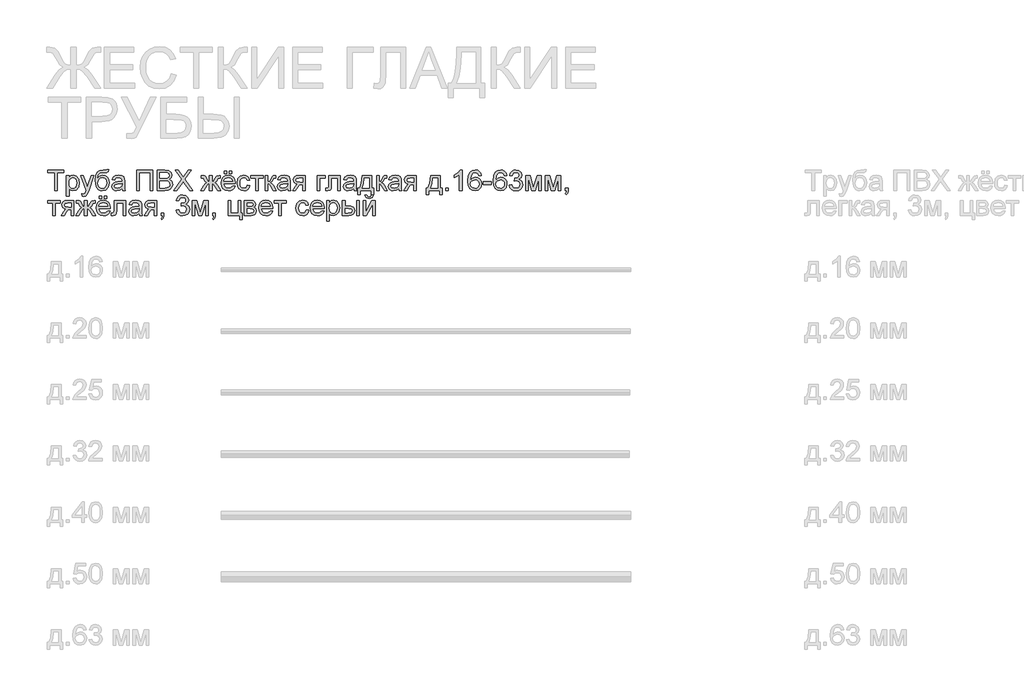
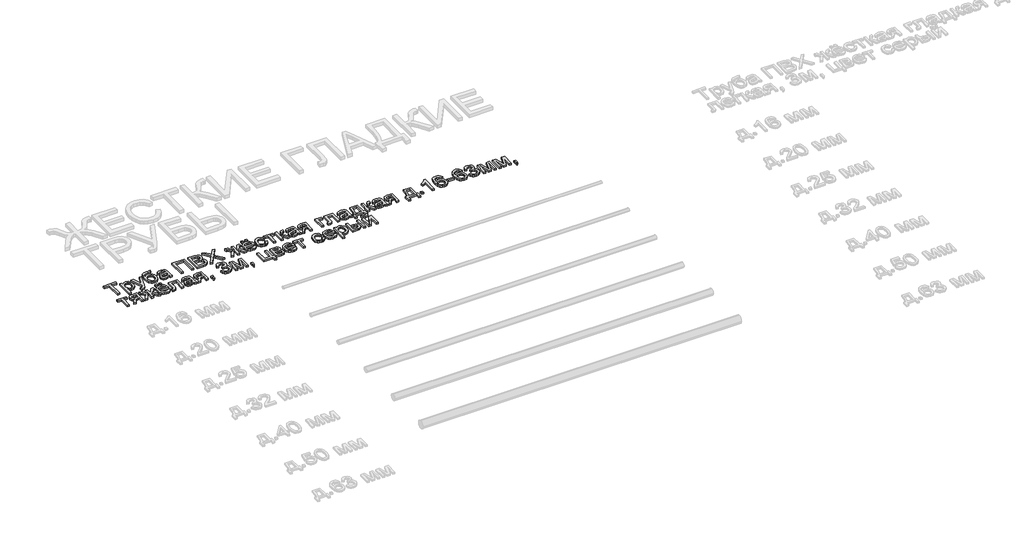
# One storey, part 91 of 98: 1 proxy.
"""IFC4 building model written with IfcOpenShell, lengths in millimetres."""

from ifc_helpers import new_model, si_unit, origin, origin_with_axes, place, context, project, spatial, polyline, outline, extrude, element, save

model = new_model("IFC4")

# Units and contexts
model_context = context("Model", 3, world=origin())
ifc_project = project(units=[si_unit("LENGTHUNIT", "METRE", prefix="MILLI")], contexts=[model_context])

# Site, building, storey
site = spatial("IfcSite", under=ifc_project)
building = spatial("IfcBuilding", under=site)
storey = spatial("IfcBuildingStorey", under=building, Name="Этаж 01", Elevation=0.0)

# Proxy
placement = place(None, origin())
element("IfcBuildingElementProxy", 1, Name="100", ObjectType="100", at=placement, inside=storey, context=model_context, shape_type="SweptSolid", body=[
    extrude(outline(polyline([(-11.289515, -3215.5625308), (-11.289515, -3127.6632594), (-44.2517418, -3127.6632594), (-44.2517418, -3115.1062206), (34.2297505, -3115.1062206), (34.2297505, -3127.6632594), (1.2675238, -3127.6632594), (1.2675238, -3215.5625308), (-11.289515, -3215.5625308)])), origin_with_axes(), (0.0, 0.0, 1.0), 10.0),
    extrude(outline(polyline([(46.7867893, -3243.815868), (46.7867893, -3141.789928), (59.3438281, -3141.789928), (59.3438281, -3154.1017121), (68.0258432, -3143.6906516), (79.7490161, -3140.2202982), (95.6660437, -3145.0763405), (106.0648415, -3158.7615507), (109.5719831, -3178.1121437), (105.6111203, -3198.456018), (94.1086766, -3212.3129065), (78.2284372, -3217.1321606), (67.3023419, -3213.9070618), (59.3438281, -3205.7523442), (59.3438281, -3243.815868), (46.7867893, -3243.815868)]), holes=[polyline([(59.3438281, -3179.2648406), (60.7019258, -3190.5220296), (64.7762189, -3198.3947043), (70.7880238, -3203.0300175), (77.958657, -3204.5751218), (85.2457862, -3202.9748352), (91.4108753, -3198.1739751), (95.6139271, -3190.0131262), (97.0149444, -3178.3328729), (95.6476496, -3167.1369975), (91.5457654, -3159.1539582), (85.5431575, -3154.3714922), (78.4736918, -3152.7773369), (71.376635, -3154.4726598), (65.1441009, -3159.5586284), (60.7938963, -3167.8758271), (59.3438281, -3179.2648406)])]), origin_with_axes(), (0.0, 0.0, 1.0), 10.0),
    extrude(outline(polyline([(123.6986518, -3243.815868), (122.1290219, -3231.7248131), (128.5056432, -3232.8284591), (134.4653315, -3231.4427702), (138.119626, -3227.5800093), (141.5531913, -3218.3339085), (142.5342099, -3215.2927506), (115.8505025, -3141.789928), (129.0942544, -3141.789928), (143.2454484, -3182.7474568), (148.1750672, -3199.1304683), (153.1046859, -3184.6604432), (167.6482874, -3141.789928), (180.7939374, -3141.789928), (155.1157741, -3217.3283643), (148.4448473, -3233.7113759), (141.1607838, -3242.5650692), (131.3751227, -3245.3854978), (123.6986518, -3243.815868)])), origin_with_axes(), (0.0, 0.0, 1.0), 10.0),
    extrude(outline(polyline([(242.9905201, -3113.5365908), (253.977929, -3113.5365908), (250.7405674, -3123.3345146), (244.3394207, -3126.8784445), (228.9619533, -3127.6632594), (208.250197, -3130.5572644), (200.3039459, -3139.8278907), (197.6184073, -3156.2354277), (208.4954516, -3144.2179492), (222.5117557, -3140.2202982), (235.5776979, -3142.7617496), (246.1788307, -3150.386104), (253.2053768, -3162.3453345), (255.5475588, -3177.8914145), (250.899983, -3199.4983503), (239.8757858, -3212.5336357), (222.5117557, -3217.1321606), (211.1779245, -3215.6514356), (202.6829161, -3211.2092605), (191.8303973, -3196.0525223), (188.0534754, -3163.8873732), (190.4355114, -3139.7941682), (197.5816191, -3125.1003482), (209.6696083, -3117.6047525), (226.8772887, -3115.1062206), (240.8568045, -3114.8241778), (242.9905201, -3113.5365908)]), holes=[polyline([(242.9905201, -3177.499007), (241.6293567, -3167.6183097), (237.5458665, -3159.7057812), (230.9853043, -3154.509448), (222.1929246, -3152.7773369), (213.0265315, -3154.6075499), (206.226846, -3160.0981886), (202.0145972, -3168.6483793), (200.6105142, -3179.657248), (202.16175, -3190.3288916), (206.8154572, -3198.1617124), (213.7439014, -3202.9717695), (222.1193482, -3204.5751218), (230.5377145, -3202.7203835), (237.20251, -3197.1561683), (241.5435175, -3188.5324012), (242.9905201, -3177.499007)])]), origin_with_axes(), (0.0, 0.0, 1.0), 10.0),
    extrude(outline(polyline([(318.3327527, -3206.1447517), (306.1558586, -3214.6550885), (292.7036403, -3217.1321606), (282.2098064, -3215.6422385), (274.4689561, -3211.1724723), (269.6956872, -3204.3850495), (268.1045976, -3195.9421577), (270.5080933, -3186.0093438), (276.8234009, -3178.7988567), (285.6157806, -3174.6785784), (296.4805622, -3172.7901175), (318.2591763, -3168.4736354), (318.3327527, -3165.6777322), (314.8746619, -3156.4071059), (300.993248, -3152.7773369), (288.2890564, -3155.1930954), (282.2312662, -3163.7647458), (269.6742274, -3162.195116), (275.1066182, -3149.9323828), (286.0449762, -3142.7464212), (302.6119287, -3140.2202982), (317.8299806, -3142.4521156), (326.4261566, -3148.0561847), (330.2766548, -3156.5787842), (330.8897914, -3167.5661931), (330.8897914, -3183.1889152), (331.5274536, -3205.0043175), (334.0290511, -3215.5625308), (321.4720124, -3215.5625308), (318.3327527, -3206.1447517)]), holes=[polyline([(318.3327527, -3181.0306742), (298.0747175, -3184.8811724), (287.2712495, -3186.9167861), (282.378419, -3190.227724), (280.6616364, -3195.0592409), (284.40177, -3201.8527951), (295.3769162, -3204.5751218), (308.0811077, -3201.5707522), (316.2726135, -3194.2989514), (318.2591763, -3184.5868668), (318.3327527, -3181.0306742)])]), origin_with_axes(), (0.0, 0.0, 1.0), 10.0),
    extrude(outline(polyline([(388.9660957, -3115.1062206), (467.447588, -3115.1062206), (467.447588, -3215.5625308), (454.8905493, -3215.5625308), (454.8905493, -3127.6632594), (401.5231345, -3127.6632594), (401.5231345, -3215.5625308), (388.9660957, -3215.5625308), (388.9660957, -3115.1062206)])), origin_with_axes(), (0.0, 0.0, 1.0), 10.0),
    extrude(outline(polyline([(489.4224059, -3215.5625308), (489.4224059, -3115.1062206), (527.7557098, -3115.1062206), (546.5299543, -3118.0615393), (557.6154651, -3127.1482246), (561.6253788, -3139.999569), (558.2531272, -3151.7350046), (548.0627959, -3160.6254862), (560.4358937, -3169.9942143), (564.7646385, -3185.6169364), (561.8093198, -3199.1182056), (554.4884681, -3208.7321884), (543.5623728, -3213.8334854), (527.4614042, -3215.5625308), (489.4224059, -3215.5625308)]), holes=[polyline([(501.9794447, -3155.9165966), (524.9107557, -3155.9165966), (538.3016603, -3154.8374761), (546.358276, -3150.1899002), (549.06834, -3142.0106572), (546.542217, -3133.8191514), (539.3072044, -3128.9753718), (523.1694476, -3127.6632594), (501.9794447, -3127.6632594), (501.9794447, -3155.9165966)]), polyline([(501.9794447, -3203.005492), (527.7311843, -3203.005492), (537.0508615, -3202.5149827), (544.935799, -3199.7803932), (550.1597233, -3194.2008496), (552.2075997, -3185.7395637), (549.804104, -3175.9784281), (542.0172685, -3170.1536298), (526.504911, -3168.4736354), (501.9794447, -3168.4736354), (501.9794447, -3203.005492)])]), origin_with_axes(), (0.0, 0.0, 1.0), 10.0),
    extrude(outline(polyline([(571.0431579, -3215.5625308), (609.7688692, -3160.8216899), (577.3216773, -3115.1062206), (592.3803136, -3115.1062206), (610.651786, -3140.8334348), (616.8076781, -3150.8643505), (624.0181652, -3140.6617566), (642.0934339, -3115.1062206), (657.3727994, -3115.1062206), (624.9256074, -3160.9688427), (663.6513188, -3215.5625308), (648.5926825, -3215.5625308), (622.7918919, -3179.1667387), (617.4208147, -3171.6128951), (611.5101774, -3179.9025027), (586.3225234, -3215.5625308), (571.0431579, -3215.5625308)])), origin_with_axes(), (0.0, 0.0, 1.0), 10.0),
    extrude(outline(polyline([(757.8291096, -3141.789928), (757.8291096, -3173.1825249), (765.1499613, -3170.5950882), (772.0784055, -3157.1673954), (780.3434877, -3144.2915256), (792.0911861, -3141.789928), (797.0698557, -3141.789928), (797.0698557, -3154.4205432), (793.611765, -3154.3469668), (787.1370419, -3155.6468165), (782.6488815, -3163.7892713), (777.4372199, -3172.7165411), (769.9937409, -3177.2537523), (778.2036407, -3182.1404515), (786.2050741, -3192.435016), (800.2091154, -3215.5625308), (785.8126667, -3215.5625308), (772.0293546, -3192.7538471), (765.0028085, -3183.2747543), (757.8291096, -3181.0306742), (757.8291096, -3215.5625308), (745.2720708, -3215.5625308), (745.2720708, -3181.0306742), (738.1228974, -3183.2257034), (731.0473003, -3192.7047961), (717.2639882, -3215.5625308), (702.892065, -3215.5625308), (716.8470553, -3192.435016), (724.9098024, -3182.1404515), (733.1564904, -3177.2537523), (725.2592903, -3172.2505572), (718.4902616, -3159.3746874), (715.1793236, -3155.1317817), (709.7591955, -3154.2733904), (706.0313247, -3154.3469668), (706.0313247, -3141.789928), (707.9197856, -3141.789928), (718.93172, -3142.5747429), (724.6461536, -3145.9102063), (731.0473003, -3157.1673954), (737.9021682, -3170.5092491), (745.2720708, -3173.1825249), (745.2720708, -3141.789928), (757.8291096, -3141.789928)])), origin_with_axes(), (0.0, 0.0, 1.0), 10.0),
    extrude(outline(polyline([(842.5891213, -3133.9417788), (842.5891213, -3121.38474), (855.14616, -3121.38474), (855.14616, -3133.9417788), (842.5891213, -3133.9417788)])), origin_with_axes(), (0.0, 0.0, 1.0), 10.0),
    extrude(outline(polyline([(817.4750437, -3133.9417788), (817.4750437, -3121.38474), (830.0320825, -3121.38474), (830.0320825, -3133.9417788), (817.4750437, -3133.9417788)])), origin_with_axes(), (0.0, 0.0, 1.0), 10.0),
    extrude(outline(polyline([(858.1382669, -3193.5877129), (870.450051, -3195.1573428), (866.0140073, -3204.4341004), (858.9353446, -3211.368676), (849.3734784, -3215.6912895), (837.4878243, -3217.1321606), (822.7541504, -3214.6458915), (811.4172535, -3207.187084), (804.1883723, -3195.2401162), (801.7787453, -3179.289366), (804.2128978, -3162.8021213), (811.5153554, -3150.4719431), (822.6989681, -3142.7832094), (836.7765857, -3140.2202982), (850.4158107, -3142.777078), (861.3143148, -3150.4474176), (868.4604226, -3162.7530704), (870.8424585, -3179.2157896), (870.7688821, -3182.600304), (814.335784, -3182.600304), (816.5093535, -3191.999689), (821.5585339, -3198.9097391), (828.8456631, -3203.1587762), (837.7330789, -3204.5751218), (850.044863, -3201.9508969), (858.1382669, -3193.5877129)]), holes=[polyline([(814.335784, -3170.0432652), (858.2854197, -3170.0432652), (853.2576991, -3158.6634488), (845.9368474, -3154.2488649), (836.7275348, -3152.7773369), (821.2642283, -3157.4739637), (816.3989889, -3162.9646025), (814.335784, -3170.0432652)])]), origin_with_axes(), (0.0, 0.0, 1.0), 10.0),
    extrude(outline(polyline([(930.4883926, -3188.8788234), (943.0454314, -3190.4484532), (939.5444211, -3201.6167375), (932.9654647, -3210.0565636), (923.9278304, -3215.3632614), (913.0507861, -3217.1321606), (899.693604, -3214.6642856), (889.248821, -3207.2606604), (882.5073834, -3195.2462476), (880.2602376, -3178.9460095), (884.0984731, -3158.0871004), (895.7971205, -3144.683933), (912.8791078, -3140.2202982), (923.4894377, -3141.7531398), (931.9721834, -3146.3516647), (938.0575647, -3153.7706183), (941.4758016, -3163.7647458), (928.9187628, -3165.3343757), (923.0939645, -3155.9288593), (912.9772097, -3152.7773369), (904.862346, -3154.3285727), (898.4213454, -3158.9822799), (894.2182936, -3166.9898447), (892.8172763, -3178.602653), (894.1876368, -3190.3718111), (898.2987181, -3198.4069671), (904.6232227, -3203.0330831), (912.6338531, -3204.5751218), (924.4673907, -3200.7246236), (930.4883926, -3188.8788234)])), origin_with_axes(), (0.0, 0.0, 1.0), 10.0),
    extrude(outline(polyline([(947.754321, -3141.789928), (1007.4002551, -3141.789928), (1007.4002551, -3154.3469668), (983.8558074, -3154.3469668), (983.8558074, -3215.5625308), (971.2987686, -3215.5625308), (971.2987686, -3154.3469668), (947.754321, -3154.3469668), (947.754321, -3141.789928)])), origin_with_axes(), (0.0, 0.0, 1.0), 10.0),
    extrude(outline(polyline([(1018.387664, -3141.789928), (1030.9447028, -3141.789928), (1030.9447028, -3173.1825249), (1039.3569377, -3170.926182), (1046.2485938, -3157.7805321), (1051.9752902, -3146.4375039), (1057.0275363, -3142.7464212), (1066.2123234, -3141.789928), (1068.6158191, -3141.789928), (1068.6158191, -3154.4205432), (1065.2313047, -3154.3469668), (1059.0999382, -3155.671342), (1054.7834561, -3163.9364241), (1049.7189473, -3172.8759566), (1042.6188248, -3177.2537523), (1050.5405504, -3182.1404515), (1058.3151232, -3192.435016), (1071.7550788, -3215.5625308), (1057.4812574, -3215.5625308), (1044.311082, -3192.9255253), (1037.689206, -3183.3483307), (1030.9447028, -3181.0306742), (1030.9447028, -3215.5625308), (1018.387664, -3215.5625308), (1018.387664, -3141.789928)])), origin_with_axes(), (0.0, 0.0, 1.0), 10.0),
    extrude(outline(polyline([(1126.6921234, -3206.1447517), (1114.5152294, -3214.6550885), (1101.0630111, -3217.1321606), (1090.5691772, -3215.6422385), (1082.8283268, -3211.1724723), (1078.055058, -3204.3850495), (1076.4639683, -3195.9421577), (1078.867464, -3186.0093438), (1085.1827716, -3178.7988567), (1093.9751513, -3174.6785784), (1104.8399329, -3172.7901175), (1126.618547, -3168.4736354), (1126.6921234, -3165.6777322), (1123.2340326, -3156.4071059), (1109.3526187, -3152.7773369), (1096.6484271, -3155.1930954), (1090.5906369, -3163.7647458), (1078.0335982, -3162.195116), (1083.465989, -3149.9323828), (1094.404347, -3142.7464212), (1110.9712995, -3140.2202982), (1126.1893513, -3142.4521156), (1134.7855273, -3148.0561847), (1138.6360255, -3156.5787842), (1139.2491622, -3167.5661931), (1139.2491622, -3183.1889152), (1139.8868243, -3205.0043175), (1142.3884219, -3215.5625308), (1129.8313831, -3215.5625308), (1126.6921234, -3206.1447517)]), holes=[polyline([(1126.6921234, -3181.0306742), (1106.4340882, -3184.8811724), (1095.6306203, -3186.9167861), (1090.7377897, -3190.227724), (1089.0210071, -3195.0592409), (1092.7611407, -3201.8527951), (1103.7362869, -3204.5751218), (1116.4404785, -3201.5707522), (1124.6319842, -3194.2989514), (1126.618547, -3184.5868668), (1126.6921234, -3181.0306742)])]), origin_with_axes(), (0.0, 0.0, 1.0), 10.0),
    extrude(outline(polyline([(1213.0217649, -3141.789928), (1213.0217649, -3215.5625308), (1200.4647262, -3215.5625308), (1200.4647262, -3187.3091935), (1193.6221211, -3187.3091935), (1184.3024438, -3188.9033489), (1175.5468524, -3199.6209776), (1165.5404621, -3215.5625308), (1151.021386, -3215.5625308), (1163.6274757, -3195.4025974), (1174.320579, -3184.9547488), (1165.7366658, -3182.3243925), (1159.7034011, -3177.3273287), (1154.9454606, -3163.1025583), (1156.5702728, -3154.5063823), (1161.4447092, -3147.7005654), (1169.3970917, -3143.2675873), (1180.2557419, -3141.789928), (1213.0217649, -3141.789928)]), holes=[polyline([(1200.4647262, -3154.3469668), (1183.9100364, -3154.3469668), (1170.506869, -3157.2532345), (1167.5024994, -3164.0590514), (1171.9293461, -3172.1647181), (1187.6133818, -3174.7521548), (1200.4647262, -3174.7521548), (1200.4647262, -3154.3469668)])]), origin_with_axes(), (0.0, 0.0, 1.0), 10.0),
    extrude(outline(polyline([(1271.0980692, -3141.789928), (1311.9084452, -3141.789928), (1311.9084452, -3154.3469668), (1283.655108, -3154.3469668), (1283.655108, -3215.5625308), (1271.0980692, -3215.5625308), (1271.0980692, -3141.789928)])), origin_with_axes(), (0.0, 0.0, 1.0), 10.0),
    extrude(outline(polyline([(1327.6047437, -3141.789928), (1384.1114182, -3141.789928), (1384.1114182, -3215.4889544), (1371.5543794, -3215.4889544), (1371.5543794, -3154.3469668), (1340.1617825, -3154.3469668), (1340.1617825, -3189.541011), (1339.3156539, -3205.7768697), (1334.668078, -3212.6317375), (1323.6806691, -3215.5625308), (1313.4780751, -3214.9248686), (1313.4780751, -3203.005492), (1319.0944069, -3203.005492), (1324.7720523, -3202.2329398), (1327.040658, -3199.7803932), (1327.6047437, -3188.8297725), (1327.6047437, -3141.789928)])), origin_with_axes(), (0.0, 0.0, 1.0), 10.0),
    extrude(outline(polyline([(1450.0358717, -3206.1447517), (1437.8589777, -3214.6550885), (1424.4067594, -3217.1321606), (1413.9129255, -3215.6422385), (1406.1720751, -3211.1724723), (1401.3988063, -3204.3850495), (1399.8077166, -3195.9421577), (1402.2112123, -3186.0093438), (1408.5265199, -3178.7988567), (1417.3188996, -3174.6785784), (1428.1836812, -3172.7901175), (1449.9622953, -3168.4736354), (1450.0358717, -3165.6777322), (1446.5777809, -3156.4071059), (1432.696367, -3152.7773369), (1419.9921754, -3155.1930954), (1413.9343852, -3163.7647458), (1401.3773465, -3162.195116), (1406.8097373, -3149.9323828), (1417.7480953, -3142.7464212), (1434.3150478, -3140.2202982), (1449.5330996, -3142.4521156), (1458.1292756, -3148.0561847), (1461.9797738, -3156.5787842), (1462.5929105, -3167.5661931), (1462.5929105, -3183.1889152), (1463.2305726, -3205.0043175), (1465.7321702, -3215.5625308), (1453.1751314, -3215.5625308), (1450.0358717, -3206.1447517)]), holes=[polyline([(1450.0358717, -3181.0306742), (1429.7778365, -3184.8811724), (1418.9743686, -3186.9167861), (1414.081538, -3190.227724), (1412.3647554, -3195.0592409), (1416.104889, -3201.8527951), (1427.0800352, -3204.5751218), (1439.7842268, -3201.5707522), (1447.9757325, -3194.2989514), (1449.9622953, -3184.5868668), (1450.0358717, -3181.0306742)])]), origin_with_axes(), (0.0, 0.0, 1.0), 10.0),
    extrude(outline(polyline([(1490.8462477, -3141.789928), (1537.9351431, -3141.789928), (1537.9351431, -3203.005492), (1547.3529222, -3203.005492), (1547.3529222, -3235.9677188), (1534.7958834, -3235.9677188), (1534.7958834, -3215.5625308), (1482.9980985, -3215.5625308), (1482.9980985, -3235.9677188), (1470.4410597, -3235.9677188), (1470.4410597, -3203.005492), (1478.2892089, -3203.005492), (1487.9890309, -3179.0563741), (1490.8462477, -3141.789928)]), holes=[polyline([(1501.8336566, -3154.3469668), (1498.8906007, -3182.9559233), (1492.4158775, -3203.005492), (1525.3781043, -3203.005492), (1525.3781043, -3154.3469668), (1501.8336566, -3154.3469668)])]), origin_with_axes(), (0.0, 0.0, 1.0), 10.0),
    extrude(outline(polyline([(1561.4795908, -3141.789928), (1574.0366295, -3141.789928), (1574.0366295, -3173.1825249), (1582.4488645, -3170.926182), (1589.3405205, -3157.7805321), (1595.0672169, -3146.4375039), (1600.119463, -3142.7464212), (1609.3042501, -3141.789928), (1611.7077458, -3141.789928), (1611.7077458, -3154.4205432), (1608.3232315, -3154.3469668), (1602.1918649, -3155.671342), (1597.8753828, -3163.9364241), (1592.810874, -3172.8759566), (1585.7107515, -3177.2537523), (1593.6324771, -3182.1404515), (1601.40705, -3192.435016), (1614.8470055, -3215.5625308), (1600.5731841, -3215.5625308), (1587.4030087, -3192.9255253), (1580.7811328, -3183.3483307), (1574.0366295, -3181.0306742), (1574.0366295, -3215.5625308), (1561.4795908, -3215.5625308), (1561.4795908, -3141.789928)])), origin_with_axes(), (0.0, 0.0, 1.0), 10.0),
    extrude(outline(polyline([(1669.7840502, -3206.1447517), (1657.6071561, -3214.6550885), (1644.1549378, -3217.1321606), (1633.6611039, -3215.6422385), (1625.9202536, -3211.1724723), (1621.1469847, -3204.3850495), (1619.5558951, -3195.9421577), (1621.9593908, -3186.0093438), (1628.2746984, -3178.7988567), (1637.067078, -3174.6785784), (1647.9318596, -3172.7901175), (1669.7104738, -3168.4736354), (1669.7840502, -3165.6777322), (1666.3259594, -3156.4071059), (1652.4445454, -3152.7773369), (1639.7403539, -3155.1930954), (1633.6825637, -3163.7647458), (1621.1255249, -3162.195116), (1626.5579157, -3149.9323828), (1637.4962737, -3142.7464212), (1654.0632262, -3140.2202982), (1669.2812781, -3142.4521156), (1677.877454, -3148.0561847), (1681.7279523, -3156.5787842), (1682.3410889, -3167.5661931), (1682.3410889, -3183.1889152), (1682.978751, -3205.0043175), (1685.4803486, -3215.5625308), (1672.9233098, -3215.5625308), (1669.7840502, -3206.1447517)]), holes=[polyline([(1669.7840502, -3181.0306742), (1649.5260149, -3184.8811724), (1638.722547, -3186.9167861), (1633.8297165, -3190.227724), (1632.1129338, -3195.0592409), (1635.8530675, -3201.8527951), (1646.8282137, -3204.5751218), (1659.5324052, -3201.5707522), (1667.723911, -3194.2989514), (1669.7104738, -3184.5868668), (1669.7840502, -3181.0306742)])]), origin_with_axes(), (0.0, 0.0, 1.0), 10.0),
    extrude(outline(polyline([(1756.1136917, -3141.789928), (1756.1136917, -3215.5625308), (1743.5566529, -3215.5625308), (1743.5566529, -3187.3091935), (1736.7140478, -3187.3091935), (1727.3943706, -3188.9033489), (1718.6387791, -3199.6209776), (1708.6323888, -3215.5625308), (1694.1133128, -3215.5625308), (1706.7194025, -3195.4025974), (1717.4125058, -3184.9547488), (1708.8285926, -3182.3243925), (1702.7953279, -3177.3273287), (1698.0373874, -3163.1025583), (1699.6621995, -3154.5063823), (1704.536636, -3147.7005654), (1712.4890184, -3143.2675873), (1723.3476686, -3141.789928), (1756.1136917, -3141.789928)]), holes=[polyline([(1743.5566529, -3154.3469668), (1727.0019631, -3154.3469668), (1713.5987958, -3157.2532345), (1710.5944261, -3164.0590514), (1715.0212728, -3172.1647181), (1730.7053086, -3174.7521548), (1743.5566529, -3174.7521548), (1743.5566529, -3154.3469668)])]), origin_with_axes(), (0.0, 0.0, 1.0), 10.0),
    extrude(outline(polyline([(1825.1774049, -3141.789928), (1872.2663003, -3141.789928), (1872.2663003, -3203.005492), (1881.6840794, -3203.005492), (1881.6840794, -3235.9677188), (1869.1270406, -3235.9677188), (1869.1270406, -3215.5625308), (1817.3292557, -3215.5625308), (1817.3292557, -3235.9677188), (1804.7722169, -3235.9677188), (1804.7722169, -3203.005492), (1812.6203661, -3203.005492), (1822.3201881, -3179.0563741), (1825.1774049, -3141.789928)]), holes=[polyline([(1836.1648138, -3154.3469668), (1833.2217579, -3182.9559233), (1826.7470348, -3203.005492), (1859.7092615, -3203.005492), (1859.7092615, -3154.3469668), (1836.1648138, -3154.3469668)])]), origin_with_axes(), (0.0, 0.0, 1.0), 10.0),
    extrude(outline(polyline([(1898.9500077, -3215.5625308), (1898.9500077, -3203.005492), (1911.5070464, -3203.005492), (1911.5070464, -3215.5625308), (1898.9500077, -3215.5625308)])), origin_with_axes(), (0.0, 0.0, 1.0), 10.0),
    extrude(outline(polyline([(1979.0011298, -3215.5625308), (1966.4440911, -3215.5625308), (1966.4440911, -3137.2772422), (1954.5492399, -3145.7507908), (1941.3300135, -3152.0906239), (1941.3300135, -3140.2202982), (1959.736376, -3128.4725998), (1970.9077259, -3115.1062206), (1979.0011298, -3115.1062206), (1979.0011298, -3215.5625308)])), origin_with_axes(), (0.0, 0.0, 1.0), 10.0),
    extrude(outline(polyline([(2073.1789206, -3141.789928), (2060.6218818, -3143.3595578), (2055.8639414, -3132.8871837), (2043.2823771, -3127.6632594), (2031.9516117, -3130.7044172), (2023.3799612, -3142.1210218), (2019.8115058, -3164.5005098), (2030.8847539, -3154.4818568), (2044.6067523, -3151.2077071), (2056.2072979, -3153.4456559), (2065.943908, -3160.1595023), (2072.5473898, -3170.4172786), (2074.7485504, -3183.2870171), (2070.6037466, -3200.614259), (2059.1994048, -3212.8769922), (2042.7428169, -3217.1321606), (2028.4965866, -3214.311732), (2017.1504927, -3205.8504461), (2009.7284735, -3190.9144371), (2007.2544671, -3168.6698391), (2010.0013193, -3143.6599948), (2018.241876, -3126.5596134), (2029.4929337, -3117.9695688), (2044.067192, -3115.1062206), (2055.0852578, -3116.8781856), (2063.9082943, -3122.1940804), (2070.0887118, -3130.6369722), (2073.1789206, -3141.789928)]), holes=[polyline([(2019.8115058, -3183.0908133), (2022.7177736, -3193.9678577), (2030.4432955, -3201.8650578), (2041.7617982, -3204.5751218), (2050.0483401, -3203.1710389), (2056.5629171, -3198.9587901), (2060.784363, -3192.3369141), (2062.1915117, -3183.70395), (2060.8027571, -3175.417408), (2056.6364935, -3169.0990348), (2050.0115519, -3165.0983181), (2041.2467634, -3163.7647458), (2026.053237, -3169.0990348), (2021.3719386, -3175.2641239), (2019.8115058, -3183.0908133)])]), origin_with_axes(), (0.0, 0.0, 1.0), 10.0),
    extrude(outline(polyline([(2082.5966997, -3185.7395637), (2082.5966997, -3173.1825249), (2121.8374458, -3173.1825249), (2121.8374458, -3185.7395637), (2082.5966997, -3185.7395637)])), origin_with_axes(), (0.0, 0.0, 1.0), 10.0),
    extrude(outline(polyline([(2197.1796784, -3141.789928), (2184.6226397, -3143.3595578), (2179.8646992, -3132.8871837), (2167.283135, -3127.6632594), (2155.9523695, -3130.7044172), (2147.380719, -3142.1210218), (2143.8122637, -3164.5005098), (2154.8855117, -3154.4818568), (2168.6075101, -3151.2077071), (2180.2080557, -3153.4456559), (2189.9446659, -3160.1595023), (2196.5481477, -3170.4172786), (2198.7493083, -3183.2870171), (2194.6045045, -3200.614259), (2183.2001626, -3212.8769922), (2166.7435747, -3217.1321606), (2152.4973444, -3214.311732), (2141.1512506, -3205.8504461), (2133.7292313, -3190.9144371), (2131.2552249, -3168.6698391), (2134.0020771, -3143.6599948), (2142.2426338, -3126.5596134), (2153.4936915, -3117.9695688), (2168.0679499, -3115.1062206), (2179.0860156, -3116.8781856), (2187.9090522, -3122.1940804), (2194.0894697, -3130.6369722), (2197.1796784, -3141.789928)]), holes=[polyline([(2143.8122637, -3183.0908133), (2146.7185314, -3193.9678577), (2154.4440533, -3201.8650578), (2165.762556, -3204.5751218), (2174.049098, -3203.1710389), (2180.563675, -3198.9587901), (2184.7851209, -3192.3369141), (2186.1922695, -3183.70395), (2184.803515, -3175.417408), (2180.6372514, -3169.0990348), (2174.0123098, -3165.0983181), (2165.2475213, -3163.7647458), (2150.0539949, -3169.0990348), (2145.3726965, -3175.2641239), (2143.8122637, -3183.0908133)])]), origin_with_axes(), (0.0, 0.0, 1.0), 10.0),
    extrude(outline(polyline([(2209.7367172, -3188.8788234), (2222.293756, -3187.3091935), (2229.2222002, -3200.5284199), (2242.1839092, -3204.5751218), (2250.7923479, -3203.1833016), (2257.4387492, -3199.007841), (2263.104132, -3185.2245289), (2257.4878002, -3172.2382945), (2243.2139788, -3167.1002093), (2234.4093363, -3168.4736354), (2235.8072879, -3155.9165966), (2237.8183762, -3156.0637494), (2252.0676721, -3152.4585059), (2256.8133499, -3147.8845064), (2258.3952424, -3141.3729951), (2253.8089802, -3131.5505458), (2241.9877054, -3127.6632594), (2230.0192779, -3131.587334), (2223.8633858, -3143.3595578), (2211.3063471, -3141.789928), (2215.0035611, -3130.5143448), (2221.5825174, -3122.0959785), (2230.5833636, -3116.8536601), (2241.5462471, -3115.1062206), (2256.6907225, -3118.5520486), (2267.285724, -3127.9698277), (2270.9522812, -3140.6372311), (2267.469665, -3152.2132512), (2257.1689691, -3160.5273843), (2270.8541793, -3169.1112975), (2275.6611707, -3185.4452581), (2273.257675, -3197.6834658), (2266.0471879, -3207.9105853), (2255.1640122, -3214.8267668), (2241.7424508, -3217.1321606), (2229.6023449, -3215.1639919), (2219.718582, -3209.2594859), (2212.8453201, -3200.2279829), (2209.7367172, -3188.8788234)])), origin_with_axes(), (0.0, 0.0, 1.0), 10.0),
    extrude(outline(polyline([(2289.7878394, -3141.789928), (2311.3947752, -3141.789928), (2328.0475669, -3200.847251), (2346.0002082, -3141.789928), (2366.6997018, -3141.789928), (2366.6997018, -3215.5625308), (2354.142663, -3215.5625308), (2354.142663, -3156.1618513), (2336.0919198, -3215.5625308), (2319.6108064, -3215.5625308), (2302.3448781, -3153.3168972), (2302.3448781, -3215.5625308), (2289.7878394, -3215.5625308), (2289.7878394, -3141.789928)])), origin_with_axes(), (0.0, 0.0, 1.0), 10.0),
    extrude(outline(polyline([(2385.53526, -3141.789928), (2407.1421958, -3141.789928), (2423.7949875, -3200.847251), (2441.7476288, -3141.789928), (2462.4471224, -3141.789928), (2462.4471224, -3215.5625308), (2449.8900837, -3215.5625308), (2449.8900837, -3156.1618513), (2431.8393404, -3215.5625308), (2415.358227, -3215.5625308), (2398.0922987, -3153.3168972), (2398.0922987, -3215.5625308), (2385.53526, -3215.5625308), (2385.53526, -3141.789928)])), origin_with_axes(), (0.0, 0.0, 1.0), 10.0),
    extrude(outline(polyline([(2484.4219403, -3215.5625308), (2484.4219403, -3203.005492), (2496.978979, -3203.005492), (2496.978979, -3215.5625308), (2494.7226361, -3228.4016124), (2487.5612, -3235.9677188), (2484.4219403, -3231.2588292), (2489.0327279, -3225.8387012), (2490.6759342, -3215.5625308), (2484.4219403, -3215.5625308)])), origin_with_axes(), (0.0, 0.0, 1.0), 10.0),
    extrude(outline(polyline([(-44.2517418, -3263.7647458), (15.3941924, -3263.7647458), (15.3941924, -3276.3217846), (-8.1502553, -3276.3217846), (-8.1502553, -3337.5373486), (-20.7072941, -3337.5373486), (-20.7072941, -3276.3217846), (-44.2517418, -3276.3217846), (-44.2517418, -3263.7647458)])), origin_with_axes(), (0.0, 0.0, 1.0), 10.0),
    extrude(outline(polyline([(82.8882758, -3263.7647458), (82.8882758, -3337.5373486), (70.331237, -3337.5373486), (70.331237, -3309.2840114), (63.4886319, -3309.2840114), (54.1689547, -3310.8781667), (45.4133632, -3321.5957955), (35.4069729, -3337.5373486), (20.8878968, -3337.5373486), (33.4939865, -3317.3774153), (44.1870899, -3306.9295666), (35.6031766, -3304.2992103), (29.5699119, -3299.3021466), (24.8119715, -3285.0773761), (26.4367836, -3276.4812001), (31.31122, -3269.6753832), (39.2636025, -3265.2424052), (50.1222527, -3263.7647458), (82.8882758, -3263.7647458)]), holes=[polyline([(70.331237, -3276.3217846), (53.7765472, -3276.3217846), (40.3733798, -3279.2280524), (37.3690102, -3286.0338693), (41.7958569, -3294.1395359), (57.4798926, -3296.7269726), (70.331237, -3296.7269726), (70.331237, -3276.3217846)])]), origin_with_axes(), (0.0, 0.0, 1.0), 10.0),
    extrude(outline(polyline([(147.2430994, -3263.7647458), (147.2430994, -3295.1573428), (154.5639511, -3292.5699061), (161.4923954, -3279.1422132), (169.7574776, -3266.2663434), (181.5051759, -3263.7647458), (186.4838456, -3263.7647458), (186.4838456, -3276.395361), (183.0257548, -3276.3217846), (176.5510317, -3277.6216343), (172.0628714, -3285.7640892), (166.8512098, -3294.6913589), (159.4077308, -3299.2285702), (167.6176306, -3304.1152694), (175.619064, -3314.4098338), (189.6231053, -3337.5373486), (175.2266565, -3337.5373486), (161.4433445, -3314.7286649), (154.4167984, -3305.2495722), (147.2430994, -3303.005492), (147.2430994, -3337.5373486), (134.6860607, -3337.5373486), (134.6860607, -3303.005492), (127.5368872, -3305.2005212), (120.4612902, -3314.679614), (106.6779781, -3337.5373486), (92.3060548, -3337.5373486), (106.2610452, -3314.4098338), (114.3237922, -3304.1152694), (122.5704803, -3299.2285702), (114.6732801, -3294.225375), (107.9042514, -3281.3495052), (104.5933135, -3277.1065995), (99.1731854, -3276.2482082), (95.4453145, -3276.3217846), (95.4453145, -3263.7647458), (97.3337754, -3263.7647458), (108.3457098, -3264.5495608), (114.0601435, -3267.8850242), (120.4612902, -3279.1422132), (127.316158, -3292.4840669), (134.6860607, -3295.1573428), (134.6860607, -3263.7647458), (147.2430994, -3263.7647458)])), origin_with_axes(), (0.0, 0.0, 1.0), 10.0),
    extrude(outline(polyline([(232.0031111, -3255.9165966), (232.0031111, -3243.3595578), (244.5601499, -3243.3595578), (244.5601499, -3255.9165966), (232.0031111, -3255.9165966)])), origin_with_axes(), (0.0, 0.0, 1.0), 10.0),
    extrude(outline(polyline([(206.8890336, -3255.9165966), (206.8890336, -3243.3595578), (219.4460724, -3243.3595578), (219.4460724, -3255.9165966), (206.8890336, -3255.9165966)])), origin_with_axes(), (0.0, 0.0, 1.0), 10.0),
    extrude(outline(polyline([(247.5522568, -3315.5625308), (259.8640409, -3317.1321606), (255.4279972, -3326.4089183), (248.3493345, -3333.3434939), (238.7874683, -3337.6661073), (226.9018141, -3339.1069785), (212.1681402, -3336.6207093), (200.8312434, -3329.1619019), (193.6023622, -3317.2149341), (191.1927351, -3301.2641839), (193.6268877, -3284.7769391), (200.9293453, -3272.4467609), (212.1129579, -3264.7580272), (226.1905756, -3262.195116), (239.8298006, -3264.7518959), (250.7283047, -3272.4222355), (257.8744124, -3284.7278882), (260.2564484, -3301.1906075), (260.182872, -3304.5751218), (203.7497739, -3304.5751218), (205.9233434, -3313.9745068), (210.9725237, -3320.884557), (218.2596529, -3325.133594), (227.1470688, -3326.5499397), (239.4588529, -3323.9257148), (247.5522568, -3315.5625308)]), holes=[polyline([(203.7497739, -3292.0180831), (247.6994096, -3292.0180831), (242.671689, -3280.6382667), (235.3508373, -3276.2236828), (226.1415247, -3274.7521548), (210.6782181, -3279.4487816), (205.8129788, -3284.9394204), (203.7497739, -3292.0180831)])]), origin_with_axes(), (0.0, 0.0, 1.0), 10.0),
    extrude(outline(polyline([(279.0920065, -3263.7647458), (335.598681, -3263.7647458), (335.598681, -3337.4637722), (323.0416422, -3337.4637722), (323.0416422, -3276.3217846), (291.6490453, -3276.3217846), (291.6490453, -3311.5158288), (290.8029167, -3327.7516875), (286.1553408, -3334.6065554), (275.1679319, -3337.5373486), (264.9653379, -3336.8996865), (264.9653379, -3324.9803098), (270.5816697, -3324.9803098), (276.2593152, -3324.2077577), (278.5279208, -3321.755211), (279.0920065, -3310.8045903), (279.0920065, -3263.7647458)])), origin_with_axes(), (0.0, 0.0, 1.0), 10.0),
    extrude(outline(polyline([(401.5231345, -3328.1195695), (389.3462405, -3336.6299064), (375.8940222, -3339.1069785), (365.4001883, -3337.6170564), (357.659338, -3333.1472901), (352.8860691, -3326.3598673), (351.2949794, -3317.9169755), (353.6984751, -3307.9841617), (360.0137827, -3300.7736746), (368.8061624, -3296.6533962), (379.670944, -3294.7649353), (401.4495581, -3290.4484532), (401.5231345, -3287.6525501), (398.0650438, -3278.3819238), (384.1836298, -3274.7521548), (371.4794382, -3277.1679132), (365.4216481, -3285.7395637), (352.8646093, -3284.1699338), (358.2970001, -3271.9072007), (369.2353581, -3264.721239), (385.8023106, -3262.195116), (401.0203625, -3264.4269334), (409.6165384, -3270.0310025), (413.4670366, -3278.5536021), (414.0801733, -3289.541011), (414.0801733, -3305.163733), (414.7178354, -3326.9791354), (417.219433, -3337.5373486), (404.6623942, -3337.5373486), (401.5231345, -3328.1195695)]), holes=[polyline([(401.5231345, -3303.005492), (381.2650993, -3306.8559902), (370.4616314, -3308.8916039), (365.5688008, -3312.2025419), (363.8520182, -3317.0340587), (367.5921518, -3323.8276129), (378.567298, -3326.5499397), (391.2714896, -3323.5455701), (399.4629953, -3316.2737693), (401.4495581, -3306.5616846), (401.5231345, -3303.005492)])]), origin_with_axes(), (0.0, 0.0, 1.0), 10.0),
    extrude(outline(polyline([(487.852776, -3263.7647458), (487.852776, -3337.5373486), (475.2957373, -3337.5373486), (475.2957373, -3309.2840114), (468.4531322, -3309.2840114), (459.133455, -3310.8781667), (450.3778635, -3321.5957955), (440.3714732, -3337.5373486), (425.8523971, -3337.5373486), (438.4584868, -3317.3774153), (449.1515902, -3306.9295666), (440.5676769, -3304.2992103), (434.5344122, -3299.3021466), (429.7764717, -3285.0773761), (431.4012839, -3276.4812001), (436.2757203, -3269.6753832), (444.2281028, -3265.2424052), (455.086753, -3263.7647458), (487.852776, -3263.7647458)]), holes=[polyline([(475.2957373, -3276.3217846), (458.7410475, -3276.3217846), (445.3378801, -3279.2280524), (442.3335105, -3286.0338693), (446.7603572, -3294.1395359), (462.4443929, -3296.7269726), (475.2957373, -3296.7269726), (475.2957373, -3276.3217846)])]), origin_with_axes(), (0.0, 0.0, 1.0), 10.0),
    extrude(outline(polyline([(509.8275939, -3337.5373486), (509.8275939, -3324.9803098), (522.3846327, -3324.9803098), (522.3846327, -3337.5373486), (520.1282898, -3350.3764302), (512.9668536, -3357.9425366), (509.8275939, -3353.2336471), (514.4383816, -3347.813519), (516.0815878, -3337.5373486), (509.8275939, -3337.5373486)])), origin_with_axes(), (0.0, 0.0, 1.0), 10.0),
    extrude(outline(polyline([(582.0305668, -3310.8536412), (594.5876056, -3309.2840114), (601.5160498, -3322.5032377), (614.4777588, -3326.5499397), (623.0861975, -3325.1581195), (629.7325989, -3320.9826588), (635.3979816, -3307.1993467), (629.7816498, -3294.2131123), (615.5078284, -3289.0750271), (606.703186, -3290.4484532), (608.1011375, -3277.8914145), (610.1122258, -3278.0385673), (624.3615217, -3274.4333237), (629.1071995, -3269.8593242), (630.689092, -3263.3478129), (626.1028298, -3253.5253636), (614.2815551, -3249.6380772), (602.3131275, -3253.5621518), (596.1572354, -3265.3343757), (583.6001967, -3263.7647458), (587.2974107, -3252.4891627), (593.8763671, -3244.0707964), (602.8772132, -3238.8284779), (613.8400967, -3237.0810385), (628.9845721, -3240.5268665), (639.5795736, -3249.9446456), (643.2461308, -3262.6120489), (639.7635146, -3274.188069), (629.4628187, -3282.5022021), (643.1480289, -3291.0861154), (647.9550203, -3307.4200759), (645.5515246, -3319.6582836), (638.3410375, -3329.8854031), (627.4578618, -3336.8015846), (614.0363004, -3339.1069785), (601.8961946, -3337.1388098), (592.0124316, -3331.2343038), (585.1391697, -3322.2028008), (582.0305668, -3310.8536412)])), origin_with_axes(), (0.0, 0.0, 1.0), 10.0),
    extrude(outline(polyline([(662.081689, -3263.7647458), (683.6886248, -3263.7647458), (700.3414165, -3322.8220688), (718.2940578, -3263.7647458), (738.9935514, -3263.7647458), (738.9935514, -3337.5373486), (726.4365127, -3337.5373486), (726.4365127, -3278.1366691), (708.3857694, -3337.5373486), (691.904656, -3337.5373486), (674.6387277, -3275.291715), (674.6387277, -3337.5373486), (662.081689, -3337.5373486), (662.081689, -3263.7647458)])), origin_with_axes(), (0.0, 0.0, 1.0), 10.0),
    extrude(outline(polyline([(760.9683693, -3337.5373486), (760.9683693, -3324.9803098), (773.525408, -3324.9803098), (773.525408, -3337.5373486), (771.2690651, -3350.3764302), (764.107629, -3357.9425366), (760.9683693, -3353.2336471), (765.5791569, -3347.813519), (767.2223632, -3337.5373486), (760.9683693, -3337.5373486)])), origin_with_axes(), (0.0, 0.0, 1.0), 10.0),
    extrude(outline(polyline([(836.3106019, -3263.7647458), (848.8676406, -3263.7647458), (848.8676406, -3324.9803098), (884.9691271, -3324.9803098), (884.9691271, -3263.7647458), (897.5261659, -3263.7647458), (897.5261659, -3324.9803098), (905.3743151, -3324.9803098), (905.3743151, -3357.9425366), (892.8172763, -3357.9425366), (892.8172763, -3337.5373486), (836.3106019, -3337.5373486), (836.3106019, -3263.7647458)])), origin_with_axes(), (0.0, 0.0, 1.0), 10.0),
    extrude(outline(polyline([(916.361724, -3263.7647458), (944.0264501, -3263.7647458), (959.195451, -3265.4447403), (967.7303133, -3271.6006323), (971.2987686, -3282.3305239), (969.1405276, -3291.0493272), (962.641279, -3297.2665329), (971.0780394, -3304.0723498), (974.4380283, -3315.9058873), (972.3104441, -3325.4769505), (967.2520667, -3332.2153224), (959.2445019, -3336.2068421), (948.2693557, -3337.5373486), (916.361724, -3337.5373486), (916.361724, -3263.7647458)]), holes=[polyline([(928.9187628, -3292.0180831), (941.3286488, -3292.0180831), (951.568031, -3291.380421), (956.5467006, -3288.8297725), (958.7417299, -3284.2189848), (954.8912317, -3278.0630927), (941.7210562, -3276.3217846), (928.9187628, -3276.3217846), (928.9187628, -3292.0180831)]), polyline([(928.9187628, -3324.9803098), (944.3207557, -3324.9803098), (957.9814404, -3322.7117042), (961.8809896, -3314.8758177), (959.7350113, -3308.8302903), (954.1432049, -3305.3108858), (943.0944823, -3304.5751218), (928.9187628, -3304.5751218), (928.9187628, -3324.9803098)])]), origin_with_axes(), (0.0, 0.0, 1.0), 10.0),
    extrude(outline(polyline([(1041.7849589, -3315.5625308), (1054.096743, -3317.1321606), (1049.6606993, -3326.4089183), (1042.5820366, -3333.3434939), (1033.0201704, -3337.6661073), (1021.1345163, -3339.1069785), (1006.4008423, -3336.6207093), (995.0639455, -3329.1619019), (987.8350643, -3317.2149341), (985.4254373, -3301.2641839), (987.8595898, -3284.7769391), (995.1620474, -3272.4467609), (1006.34566, -3264.7580272), (1020.4232777, -3262.195116), (1034.0625027, -3264.7518959), (1044.9610068, -3272.4222355), (1052.1071146, -3284.7278882), (1054.4891505, -3301.1906075), (1054.4155741, -3304.5751218), (997.982476, -3304.5751218), (1000.1560455, -3313.9745068), (1005.2052259, -3320.884557), (1012.4923551, -3325.133594), (1021.3797709, -3326.5499397), (1033.691555, -3323.9257148), (1041.7849589, -3315.5625308)]), holes=[polyline([(997.982476, -3292.0180831), (1041.9321117, -3292.0180831), (1036.9043911, -3280.6382667), (1029.5835394, -3276.2236828), (1020.3742268, -3274.7521548), (1004.9109203, -3279.4487816), (1000.0456809, -3284.9394204), (997.982476, -3292.0180831)])]), origin_with_axes(), (0.0, 0.0, 1.0), 10.0),
    extrude(outline(polyline([(1060.7676699, -3263.7647458), (1120.413604, -3263.7647458), (1120.413604, -3276.3217846), (1096.8691563, -3276.3217846), (1096.8691563, -3337.5373486), (1084.3121176, -3337.5373486), (1084.3121176, -3276.3217846), (1060.7676699, -3276.3217846), (1060.7676699, -3263.7647458)])), origin_with_axes(), (0.0, 0.0, 1.0), 10.0),
    extrude(outline(polyline([(1217.7306545, -3310.8536412), (1230.2876932, -3312.4232711), (1226.7866829, -3323.5915553), (1220.2077266, -3332.0313814), (1211.1700922, -3337.3380792), (1200.2930479, -3339.1069785), (1186.9358658, -3336.6391034), (1176.4910828, -3329.2354783), (1169.7496453, -3317.2210654), (1167.5024994, -3300.9208274), (1171.3407349, -3280.0619182), (1183.0393823, -3266.6587509), (1200.1213696, -3262.195116), (1210.7316995, -3263.7279576), (1219.2144452, -3268.3264826), (1225.2998265, -3275.7454362), (1228.7180634, -3285.7395637), (1216.1610246, -3287.3091935), (1210.3362264, -3277.9036772), (1200.2194715, -3274.7521548), (1192.1046078, -3276.3033905), (1185.6636072, -3280.9570978), (1181.4605554, -3288.9646625), (1180.0595382, -3300.5774708), (1181.4298986, -3312.346629), (1185.5409799, -3320.3817849), (1191.8654845, -3325.007901), (1199.876115, -3326.5499397), (1211.7096525, -3322.6994415), (1217.7306545, -3310.8536412)])), origin_with_axes(), (0.0, 0.0, 1.0), 10.0),
    extrude(outline(polyline([(1292.9257343, -3315.5625308), (1305.2375184, -3317.1321606), (1300.8014747, -3326.4089183), (1293.7228119, -3333.3434939), (1284.1609458, -3337.6661073), (1272.2752916, -3339.1069785), (1257.5416177, -3336.6207093), (1246.2047209, -3329.1619019), (1238.9758397, -3317.2149341), (1236.5662126, -3301.2641839), (1239.0003652, -3284.7769391), (1246.3028228, -3272.4467609), (1257.4864354, -3264.7580272), (1271.5640531, -3262.195116), (1285.2032781, -3264.7518959), (1296.1017822, -3272.4222355), (1303.2478899, -3284.7278882), (1305.6299259, -3301.1906075), (1305.5563495, -3304.5751218), (1249.1232514, -3304.5751218), (1251.2968209, -3313.9745068), (1256.3460012, -3320.884557), (1263.6331304, -3325.133594), (1272.5205463, -3326.5499397), (1284.8323304, -3323.9257148), (1292.9257343, -3315.5625308)]), holes=[polyline([(1249.1232514, -3292.0180831), (1293.0728871, -3292.0180831), (1288.0451665, -3280.6382667), (1280.7243148, -3276.2236828), (1271.5150022, -3274.7521548), (1256.0516956, -3279.4487816), (1251.1864563, -3284.9394204), (1249.1232514, -3292.0180831)])]), origin_with_axes(), (0.0, 0.0, 1.0), 10.0),
    extrude(outline(polyline([(1318.1869646, -3365.7906858), (1318.1869646, -3263.7647458), (1330.7440034, -3263.7647458), (1330.7440034, -3276.07653), (1339.4260185, -3265.6654695), (1351.1491914, -3262.195116), (1367.0662191, -3267.0511583), (1377.4650168, -3280.7363686), (1380.9721585, -3300.0869615), (1377.0112957, -3320.4308358), (1365.5088519, -3334.2877243), (1349.6286125, -3339.1069785), (1338.7025172, -3335.8818796), (1330.7440034, -3327.7271621), (1330.7440034, -3365.7906858), (1318.1869646, -3365.7906858)]), holes=[polyline([(1330.7440034, -3301.2396584), (1332.1021011, -3312.4968475), (1336.1763942, -3320.3695222), (1342.1881991, -3325.0048353), (1349.3588324, -3326.5499397), (1356.6459615, -3324.949653), (1362.8110506, -3320.148793), (1367.0141024, -3311.987944), (1368.4151197, -3300.3076907), (1367.047825, -3289.1118153), (1362.9459407, -3281.128776), (1356.9433328, -3276.3463101), (1349.8738671, -3274.7521548), (1342.7768103, -3276.4474776), (1336.5442762, -3281.5334462), (1332.1940716, -3289.850645), (1330.7440034, -3301.2396584)])]), origin_with_axes(), (0.0, 0.0, 1.0), 10.0),
    extrude(outline(polyline([(1395.0988271, -3263.7647458), (1407.6558659, -3263.7647458), (1407.6558659, -3290.4484532), (1423.1804861, -3290.4484532), (1436.5989818, -3292.0211488), (1446.5409927, -3296.7392353), (1452.6938191, -3304.2225683), (1454.7447612, -3314.0910028), (1453.0249129, -3323.0765205), (1447.8653679, -3330.6579553), (1438.9289011, -3335.8175003), (1425.8782873, -3337.5373486), (1395.0988271, -3337.5373486), (1395.0988271, -3263.7647458)]), holes=[polyline([(1407.6558659, -3324.9803098), (1420.5562612, -3324.9803098), (1437.2090528, -3322.3438222), (1442.1877225, -3314.1155283), (1438.4966398, -3306.3900064), (1422.1994674, -3303.005492), (1407.6558659, -3303.005492), (1407.6558659, -3324.9803098)])]), origin_with_axes(), (0.0, 0.0, 1.0), 10.0),
    extrude(outline(polyline([(1464.1625403, -3263.7647458), (1476.7195791, -3263.7647458), (1476.7195791, -3337.5373486), (1464.1625403, -3337.5373486), (1464.1625403, -3263.7647458)])), origin_with_axes(), (0.0, 0.0, 1.0), 10.0),
    extrude(outline(polyline([(1536.3655132, -3237.0810385), (1545.7832923, -3237.0810385), (1539.6887139, -3251.0482915), (1526.1629192, -3255.9165966), (1511.5212158, -3251.0850797), (1504.9729163, -3237.0810385), (1514.3906954, -3237.0810385), (1517.9223625, -3244.1566355), (1525.0347478, -3246.4988175), (1532.8338461, -3244.2302119), (1536.3655132, -3237.0810385)])), origin_with_axes(), (0.0, 0.0, 1.0), 10.0),
    extrude(outline(polyline([(1495.5551372, -3263.7647458), (1508.112176, -3263.7647458), (1508.112176, -3320.0261656), (1538.9652127, -3263.7647458), (1555.2010714, -3263.7647458), (1555.2010714, -3337.5373486), (1542.6440326, -3337.5373486), (1542.6440326, -3281.6192853), (1511.9871997, -3337.5373486), (1495.5551372, -3337.5373486), (1495.5551372, -3263.7647458)])), origin_with_axes(), (0.0, 0.0, 1.0), 10.0),
])

save(model, "model.ifc")
